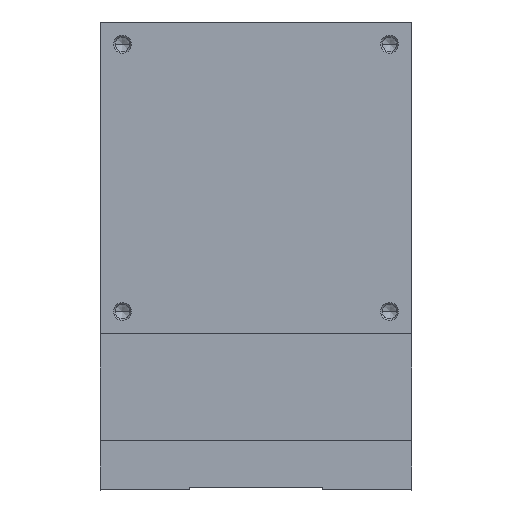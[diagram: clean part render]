
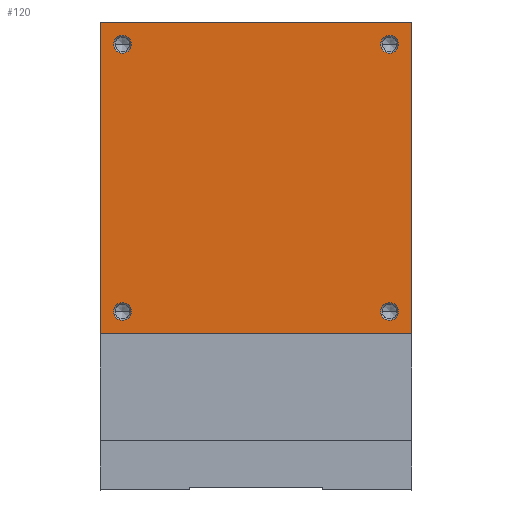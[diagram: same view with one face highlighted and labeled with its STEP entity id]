
A CAD part, top view. The second image highlights one B-rep face of the part: STEP entity #120.
In plain terms, the highlighted planar face has unit normal (0, 0, 1).
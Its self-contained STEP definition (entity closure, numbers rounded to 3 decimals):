
#120=ADVANCED_FACE('',(#765,#766,#767,#768,#769),#764,.T.);
#764=PLANE('',#2797);
#765=FACE_OUTER_BOUND('',#2798,.T.);
#766=FACE_BOUND('',#2799,.T.);
#767=FACE_BOUND('',#2800,.T.);
#768=FACE_BOUND('',#2801,.T.);
#769=FACE_BOUND('',#2802,.T.);
#2794=CARTESIAN_POINT('',(-42.,28.,14.));
#2795=DIRECTION('',(0.,0.,1.));
#2796=DIRECTION('',(1.,0.,0.));
#2797=AXIS2_PLACEMENT_3D('',#2794,#2795,#2796);
#2798=EDGE_LOOP('',(#4244,#4245,#4246,#4247));
#2799=EDGE_LOOP('',(#4248,#4249));
#2800=EDGE_LOOP('',(#4250,#4251));
#2801=EDGE_LOOP('',(#4252,#4253));
#2802=EDGE_LOOP('',(#4254,#4255));
#4244=ORIENTED_EDGE('',*,*,#5135,.F.);
#4245=ORIENTED_EDGE('',*,*,#4972,.F.);
#4246=ORIENTED_EDGE('',*,*,#5134,.T.);
#4247=ORIENTED_EDGE('',*,*,#5142,.T.);
#4248=ORIENTED_EDGE('',*,*,#5143,.F.);
#4249=ORIENTED_EDGE('',*,*,#5144,.F.);
#4250=ORIENTED_EDGE('',*,*,#5145,.F.);
#4251=ORIENTED_EDGE('',*,*,#5146,.F.);
#4252=ORIENTED_EDGE('',*,*,#5147,.F.);
#4253=ORIENTED_EDGE('',*,*,#5148,.F.);
#4254=ORIENTED_EDGE('',*,*,#5149,.F.);
#4255=ORIENTED_EDGE('',*,*,#5150,.F.);
#4972=EDGE_CURVE('',#5514,#5521,#5522,.T.);
#5134=EDGE_CURVE('',#5514,#6613,#6620,.T.);
#5135=EDGE_CURVE('',#5521,#6626,#6627,.T.);
#5142=EDGE_CURVE('',#6613,#6626,#6671,.T.);
#5143=EDGE_CURVE('',#6677,#6678,#6679,.T.);
#5144=EDGE_CURVE('',#6678,#6677,#6685,.T.);
#5145=EDGE_CURVE('',#6691,#6692,#6693,.T.);
#5146=EDGE_CURVE('',#6692,#6691,#6699,.T.);
#5147=EDGE_CURVE('',#6705,#6706,#6707,.T.);
#5148=EDGE_CURVE('',#6706,#6705,#6713,.T.);
#5149=EDGE_CURVE('',#6719,#6720,#6721,.T.);
#5150=EDGE_CURVE('',#6720,#6719,#6727,.T.);
#5514=VERTEX_POINT('',#8758);
#5521=VERTEX_POINT('',#8762);
#5522=LINE('',#8763,#8764);
#6613=VERTEX_POINT('',#9436);
#6620=LINE('',#9440,#9441);
#6626=VERTEX_POINT('',#9443);
#6627=LINE('',#9444,#9445);
#6671=LINE('',#9467,#9468);
#6677=VERTEX_POINT('',#9470);
#6678=VERTEX_POINT('',#9471);
#6679=CIRCLE('',#9475,2.);
#6685=CIRCLE('',#9479,2.);
#6691=VERTEX_POINT('',#9480);
#6692=VERTEX_POINT('',#9481);
#6693=CIRCLE('',#9485,2.);
#6699=CIRCLE('',#9489,2.);
#6705=VERTEX_POINT('',#9490);
#6706=VERTEX_POINT('',#9491);
#6707=CIRCLE('',#9495,2.);
#6713=CIRCLE('',#9499,2.);
#6719=VERTEX_POINT('',#9500);
#6720=VERTEX_POINT('',#9501);
#6721=CIRCLE('',#9505,2.);
#6727=CIRCLE('',#9509,2.);
#8758=CARTESIAN_POINT('',(-35.,105.,14.));
#8762=CARTESIAN_POINT('',(35.,105.,14.));
#8763=CARTESIAN_POINT('',(-35.,105.,14.));
#8764=VECTOR('',#8765,70.);
#8765=DIRECTION('',(1.,0.,0.));
#9436=CARTESIAN_POINT('',(-35.,35.,14.));
#9440=CARTESIAN_POINT('',(-35.,105.,14.));
#9441=VECTOR('',#9442,70.);
#9442=DIRECTION('',(0.,-1.,0.));
#9443=CARTESIAN_POINT('',(35.,35.,14.));
#9444=CARTESIAN_POINT('',(35.,105.,14.));
#9445=VECTOR('',#9446,70.);
#9446=DIRECTION('',(0.,-1.,0.));
#9467=CARTESIAN_POINT('',(-35.,35.,14.));
#9468=VECTOR('',#9469,70.);
#9469=DIRECTION('',(1.,0.,0.));
#9470=CARTESIAN_POINT('',(-32.,40.,14.));
#9471=CARTESIAN_POINT('',(-28.,40.,14.));
#9472=CARTESIAN_POINT('',(-30.,40.,14.));
#9473=DIRECTION('',(0.,0.,1.));
#9474=DIRECTION('',(1.,0.,0.));
#9475=AXIS2_PLACEMENT_3D('',#9472,#9473,#9474);
#9476=CARTESIAN_POINT('',(-30.,40.,14.));
#9477=DIRECTION('',(0.,0.,1.));
#9478=DIRECTION('',(1.,0.,0.));
#9479=AXIS2_PLACEMENT_3D('',#9476,#9477,#9478);
#9480=CARTESIAN_POINT('',(28.,40.,14.));
#9481=CARTESIAN_POINT('',(32.,40.,14.));
#9482=CARTESIAN_POINT('',(30.,40.,14.));
#9483=DIRECTION('',(0.,0.,1.));
#9484=DIRECTION('',(1.,0.,0.));
#9485=AXIS2_PLACEMENT_3D('',#9482,#9483,#9484);
#9486=CARTESIAN_POINT('',(30.,40.,14.));
#9487=DIRECTION('',(0.,0.,1.));
#9488=DIRECTION('',(1.,0.,0.));
#9489=AXIS2_PLACEMENT_3D('',#9486,#9487,#9488);
#9490=CARTESIAN_POINT('',(28.,100.,14.));
#9491=CARTESIAN_POINT('',(32.,100.,14.));
#9492=CARTESIAN_POINT('',(30.,100.,14.));
#9493=DIRECTION('',(0.,0.,1.));
#9494=DIRECTION('',(1.,0.,0.));
#9495=AXIS2_PLACEMENT_3D('',#9492,#9493,#9494);
#9496=CARTESIAN_POINT('',(30.,100.,14.));
#9497=DIRECTION('',(0.,0.,1.));
#9498=DIRECTION('',(1.,0.,0.));
#9499=AXIS2_PLACEMENT_3D('',#9496,#9497,#9498);
#9500=CARTESIAN_POINT('',(-32.,100.,14.));
#9501=CARTESIAN_POINT('',(-28.,100.,14.));
#9502=CARTESIAN_POINT('',(-30.,100.,14.));
#9503=DIRECTION('',(0.,0.,1.));
#9504=DIRECTION('',(1.,0.,0.));
#9505=AXIS2_PLACEMENT_3D('',#9502,#9503,#9504);
#9506=CARTESIAN_POINT('',(-30.,100.,14.));
#9507=DIRECTION('',(0.,0.,1.));
#9508=DIRECTION('',(1.,0.,0.));
#9509=AXIS2_PLACEMENT_3D('',#9506,#9507,#9508);
